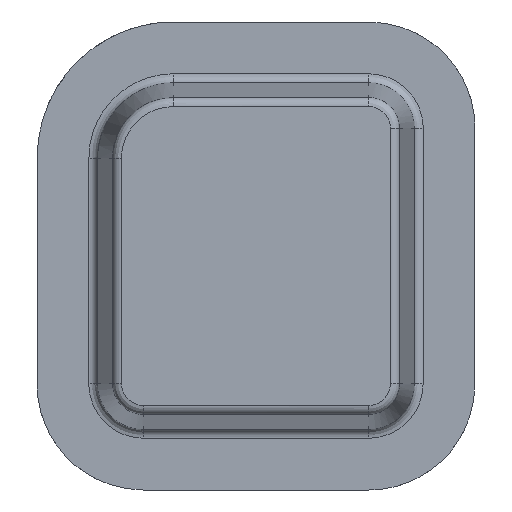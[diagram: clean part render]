
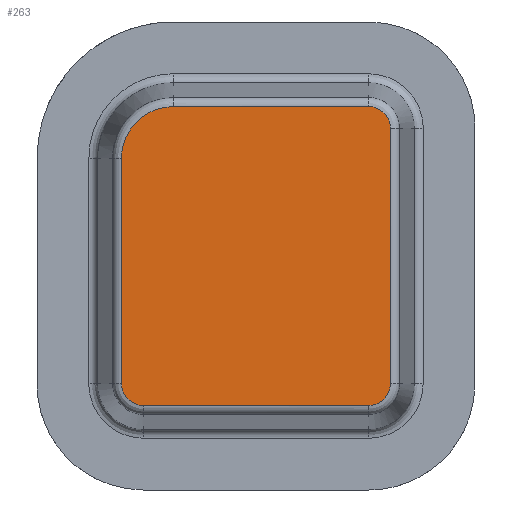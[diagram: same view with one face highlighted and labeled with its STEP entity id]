
A CAD part, front view. The second image highlights one B-rep face of the part: STEP entity #263.
In plain terms, the highlighted planar face has unit normal (0, -1, 0).
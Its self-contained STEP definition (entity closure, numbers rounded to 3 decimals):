
#144=CARTESIAN_POINT('Axis2P3D Location',(48.58,0.,51.42)) ;
#149=CARTESIAN_POINT('Line Origine',(2.749,0.,47.5)) ;
#153=CARTESIAN_POINT('Vertex',(2.749,0.,85.)) ;
#155=CARTESIAN_POINT('Vertex',(2.749,0.,10.)) ;
#159=CARTESIAN_POINT('Control Point',(2.749,0.,10.)) ;
#160=CARTESIAN_POINT('Control Point',(2.749,0.,9.038)) ;
#161=CARTESIAN_POINT('Control Point',(2.908,0.,8.077)) ;
#162=CARTESIAN_POINT('Control Point',(3.227,0.,7.152)) ;
#163=CARTESIAN_POINT('Control Point',(4.158,0.,5.442)) ;
#164=CARTESIAN_POINT('Control Point',(5.59,0.,4.123)) ;
#165=CARTESIAN_POINT('Control Point',(6.409,0.,3.589)) ;
#166=CARTESIAN_POINT('Control Point',(7.6,0.,3.072)) ;
#167=CARTESIAN_POINT('Control Point',(8.861,0.,2.828)) ;
#168=CARTESIAN_POINT('Control Point',(9.18,0.,2.785)) ;
#169=CARTESIAN_POINT('Control Point',(9.536,0.,2.756)) ;
#170=CARTESIAN_POINT('Control Point',(9.893,0.,2.75)) ;
#171=CARTESIAN_POINT('Control Point',(9.929,0.,2.749)) ;
#172=CARTESIAN_POINT('Control Point',(9.964,0.,2.749)) ;
#173=CARTESIAN_POINT('Control Point',(10.,0.,2.749)) ;
#174=CARTESIAN_POINT('Vertex',(10.,0.,2.749)) ;
#177=CARTESIAN_POINT('Line Origine',(47.5,0.,2.749)) ;
#181=CARTESIAN_POINT('Vertex',(85.,0.,2.749)) ;
#185=CARTESIAN_POINT('Control Point',(85.,0.,2.749)) ;
#186=CARTESIAN_POINT('Control Point',(85.962,0.,2.749)) ;
#187=CARTESIAN_POINT('Control Point',(86.923,0.,2.908)) ;
#188=CARTESIAN_POINT('Control Point',(87.848,0.,3.227)) ;
#189=CARTESIAN_POINT('Control Point',(89.558,0.,4.158)) ;
#190=CARTESIAN_POINT('Control Point',(90.877,0.,5.59)) ;
#191=CARTESIAN_POINT('Control Point',(91.411,0.,6.409)) ;
#192=CARTESIAN_POINT('Control Point',(91.928,0.,7.6)) ;
#193=CARTESIAN_POINT('Control Point',(92.172,0.,8.861)) ;
#194=CARTESIAN_POINT('Control Point',(92.215,0.,9.18)) ;
#195=CARTESIAN_POINT('Control Point',(92.244,0.,9.536)) ;
#196=CARTESIAN_POINT('Control Point',(92.25,0.,9.893)) ;
#197=CARTESIAN_POINT('Control Point',(92.251,0.,9.929)) ;
#198=CARTESIAN_POINT('Control Point',(92.251,0.,9.964)) ;
#199=CARTESIAN_POINT('Control Point',(92.251,0.,10.)) ;
#200=CARTESIAN_POINT('Vertex',(92.251,0.,10.)) ;
#203=CARTESIAN_POINT('Line Origine',(92.251,0.,52.5)) ;
#207=CARTESIAN_POINT('Vertex',(92.251,0.,95.)) ;
#211=CARTESIAN_POINT('Control Point',(92.251,0.,95.)) ;
#212=CARTESIAN_POINT('Control Point',(92.251,0.,95.962)) ;
#213=CARTESIAN_POINT('Control Point',(92.092,0.,96.923)) ;
#214=CARTESIAN_POINT('Control Point',(91.773,0.,97.848)) ;
#215=CARTESIAN_POINT('Control Point',(90.842,0.,99.558)) ;
#216=CARTESIAN_POINT('Control Point',(89.41,0.,100.877)) ;
#217=CARTESIAN_POINT('Control Point',(88.591,0.,101.411)) ;
#218=CARTESIAN_POINT('Control Point',(87.4,0.,101.928)) ;
#219=CARTESIAN_POINT('Control Point',(86.139,0.,102.172)) ;
#220=CARTESIAN_POINT('Control Point',(85.82,0.,102.215)) ;
#221=CARTESIAN_POINT('Control Point',(85.464,0.,102.244)) ;
#222=CARTESIAN_POINT('Control Point',(85.107,0.,102.25)) ;
#223=CARTESIAN_POINT('Control Point',(85.071,0.,102.251)) ;
#224=CARTESIAN_POINT('Control Point',(85.036,0.,102.251)) ;
#225=CARTESIAN_POINT('Control Point',(85.,0.,102.251)) ;
#226=CARTESIAN_POINT('Vertex',(85.,0.,102.251)) ;
#229=CARTESIAN_POINT('Line Origine',(52.5,0.,102.251)) ;
#233=CARTESIAN_POINT('Vertex',(20.,0.,102.251)) ;
#237=CARTESIAN_POINT('Control Point',(20.,0.,102.251)) ;
#238=CARTESIAN_POINT('Control Point',(18.077,0.,102.251)) ;
#239=CARTESIAN_POINT('Control Point',(16.154,0.,101.983)) ;
#240=CARTESIAN_POINT('Control Point',(14.282,0.,101.447)) ;
#241=CARTESIAN_POINT('Control Point',(10.736,0.,99.869)) ;
#242=CARTESIAN_POINT('Control Point',(7.757,0.,97.382)) ;
#243=CARTESIAN_POINT('Control Point',(6.451,0.,95.938)) ;
#244=CARTESIAN_POINT('Control Point',(4.493,0.,93.044)) ;
#245=CARTESIAN_POINT('Control Point',(3.313,0.,89.767)) ;
#246=CARTESIAN_POINT('Control Point',(2.954,0.,88.258)) ;
#247=CARTESIAN_POINT('Control Point',(2.762,0.,86.684)) ;
#248=CARTESIAN_POINT('Control Point',(2.749,0.,85.108)) ;
#249=CARTESIAN_POINT('Control Point',(2.749,0.,85.072)) ;
#250=CARTESIAN_POINT('Control Point',(2.749,0.,85.036)) ;
#251=CARTESIAN_POINT('Control Point',(2.749,0.,85.)) ;
#145=DIRECTION('Axis2P3D Direction',(0.,-1.,0.)) ;
#146=DIRECTION('Axis2P3D XDirection',(0.253,0.,0.968)) ;
#150=DIRECTION('Vector Direction',(0.,0.,1.)) ;
#178=DIRECTION('Vector Direction',(1.,0.,0.)) ;
#204=DIRECTION('Vector Direction',(0.,0.,1.)) ;
#230=DIRECTION('Vector Direction',(-1.,0.,0.)) ;
#147=AXIS2_PLACEMENT_3D('Plane Axis2P3D',#144,#145,#146) ;
#254=ORIENTED_EDGE('',*,*,#157,.T.) ;
#255=ORIENTED_EDGE('',*,*,#176,.T.) ;
#256=ORIENTED_EDGE('',*,*,#183,.T.) ;
#257=ORIENTED_EDGE('',*,*,#202,.T.) ;
#258=ORIENTED_EDGE('',*,*,#209,.T.) ;
#259=ORIENTED_EDGE('',*,*,#228,.T.) ;
#260=ORIENTED_EDGE('',*,*,#235,.T.) ;
#261=ORIENTED_EDGE('',*,*,#252,.T.) ;
#151=VECTOR('Line Direction',#150,1.) ;
#179=VECTOR('Line Direction',#178,1.) ;
#205=VECTOR('Line Direction',#204,1.) ;
#231=VECTOR('Line Direction',#230,1.) ;
#263=ADVANCED_FACE('base',(#262),#148,.T.) ;
#158=B_SPLINE_CURVE_WITH_KNOTS('',5,(#159,#160,#161,#162,#163,#164,#165,#166,#167,#168,#169,#170,#171,#172,#173),.UNSPECIFIED.,.F.,.U.,(6,3,3,3,6),(25.885,35.748,45.616,48.904,49.271),.UNSPECIFIED.) ;
#184=B_SPLINE_CURVE_WITH_KNOTS('',5,(#185,#186,#187,#188,#189,#190,#191,#192,#193,#194,#195,#196,#197,#198,#199),.UNSPECIFIED.,.F.,.U.,(6,3,3,3,6),(25.885,35.747,45.615,48.904,49.271),.UNSPECIFIED.) ;
#210=B_SPLINE_CURVE_WITH_KNOTS('',5,(#211,#212,#213,#214,#215,#216,#217,#218,#219,#220,#221,#222,#223,#224,#225),.UNSPECIFIED.,.F.,.U.,(6,3,3,3,6),(25.885,35.747,45.615,48.904,49.271),.UNSPECIFIED.) ;
#236=B_SPLINE_CURVE_WITH_KNOTS('',5,(#237,#238,#239,#240,#241,#242,#243,#244,#245,#246,#247,#248,#249,#250,#251),.UNSPECIFIED.,.F.,.U.,(6,3,3,3,6),(37.905,53.869,69.853,82.631,82.932),.UNSPECIFIED.) ;
#157=EDGE_CURVE('',#154,#156,#152,.F.) ;
#176=EDGE_CURVE('',#156,#175,#158,.T.) ;
#183=EDGE_CURVE('',#175,#182,#180,.T.) ;
#202=EDGE_CURVE('',#182,#201,#184,.T.) ;
#209=EDGE_CURVE('',#201,#208,#206,.T.) ;
#228=EDGE_CURVE('',#208,#227,#210,.T.) ;
#235=EDGE_CURVE('',#227,#234,#232,.T.) ;
#252=EDGE_CURVE('',#234,#154,#236,.T.) ;
#253=EDGE_LOOP('',(#254,#255,#256,#257,#258,#259,#260,#261)) ;
#262=FACE_OUTER_BOUND('',#253,.T.) ;
#152=LINE('Line',#149,#151) ;
#180=LINE('Line',#177,#179) ;
#206=LINE('Line',#203,#205) ;
#232=LINE('Line',#229,#231) ;
#148=PLANE('',#147) ;
#154=VERTEX_POINT('',#153) ;
#156=VERTEX_POINT('',#155) ;
#175=VERTEX_POINT('',#174) ;
#182=VERTEX_POINT('',#181) ;
#201=VERTEX_POINT('',#200) ;
#208=VERTEX_POINT('',#207) ;
#227=VERTEX_POINT('',#226) ;
#234=VERTEX_POINT('',#233) ;
